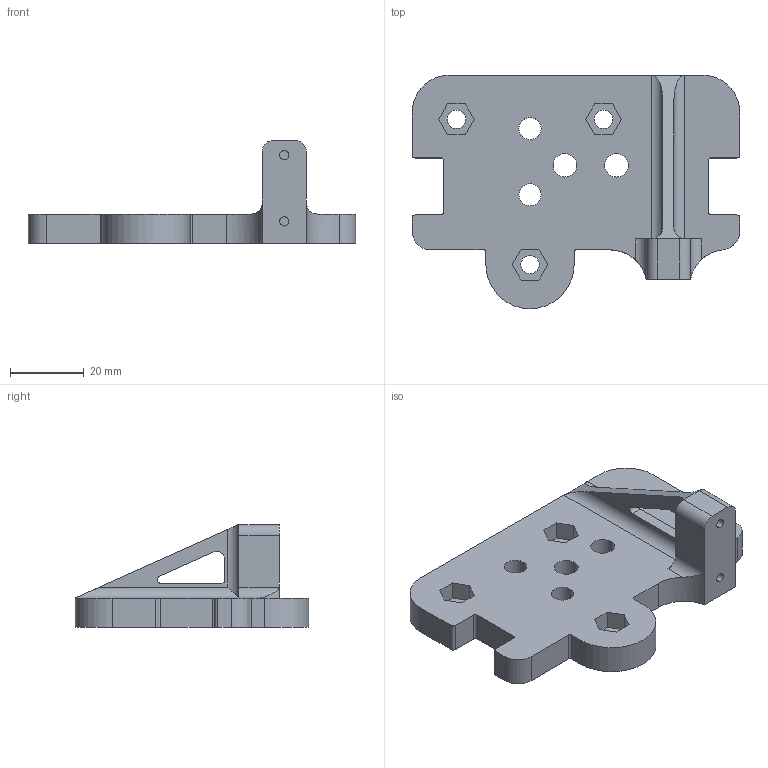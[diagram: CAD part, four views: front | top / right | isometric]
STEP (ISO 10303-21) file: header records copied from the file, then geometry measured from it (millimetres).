
FILE_DESCRIPTION (( 'STEP AP203' ), '1' );
FILE_NAME ('Ender_5_Mounting_Plate_BLTouch.STEP', '2022-07-25T00:45:04', ( '' ), ( '' ), 'SwSTEP 2.0', 'SolidWorks 2021', '' );
FILE_SCHEMA (( 'CONFIG_CONTROL_DESIGN' ));
Length unit declared in the file: millimetre
Products named in the file (1): Ender_5_Mounting_Plate_BLTouch
Bounding box: 89 x 63.5 x 28 mm (x, y, z)
Volume: 36671.8 mm3; surface area: 13802.5 mm2
Topology: 1 solids, 1 shells, 99 faces, 270 edges, 178 vertices
Faces by surface type: plane 53, cylinder 46
Entity records: 3285 total; most frequent: CARTESIAN_POINT 618, DIRECTION 540, ORIENTED_EDGE 540, EDGE_CURVE 270, AXIS2_PLACEMENT_3D 182, VERTEX_POINT 178, VECTOR 176, LINE 176
